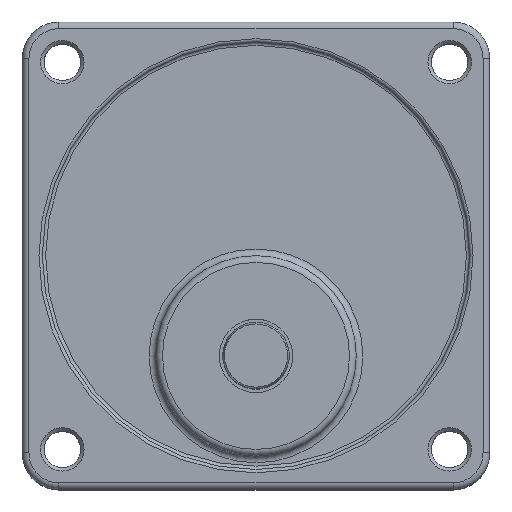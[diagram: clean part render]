
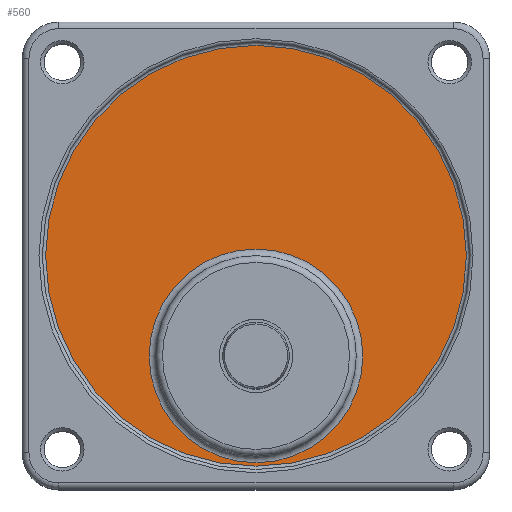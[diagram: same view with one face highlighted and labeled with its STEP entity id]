
A CAD part, top view. The second image highlights one B-rep face of the part: STEP entity #560.
In plain terms, the highlighted planar face has unit normal (0, 0, 1).
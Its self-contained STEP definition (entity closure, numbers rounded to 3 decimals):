
#509=CARTESIAN_POINT('',(51.,20.0,41.));
#510=VERTEX_POINT('',#509);
#511=CARTESIAN_POINT('',(35.,20.0,41.));
#512=DIRECTION('',(0.0,0.0,1.0));
#513=DIRECTION('',(-1.0,0.0,0.0));
#514=AXIS2_PLACEMENT_3D('',#511,#512,#513);
#515=CIRCLE('',#514,16.0);
#516=EDGE_CURVE('',#510,#510,#515,.T.);
#541=CARTESIAN_POINT('',(35.,35.0,41.));
#542=DIRECTION('',(0.0,0.0,-1.0));
#543=DIRECTION('',(-1.0,0.0,0.0));
#544=AXIS2_PLACEMENT_3D('',#541,#542,#543);
#545=PLANE('',#544);
#546=CARTESIAN_POINT('',(66.5,35.,41.));
#547=VERTEX_POINT('',#546);
#548=CARTESIAN_POINT('',(35.,35.0,41.));
#549=DIRECTION('',(0.0,0.0,-1.0));
#550=DIRECTION('',(-1.0,0.0,0.0));
#551=AXIS2_PLACEMENT_3D('',#548,#549,#550);
#552=CIRCLE('',#551,31.5);
#553=EDGE_CURVE('',#547,#547,#552,.T.);
#554=ORIENTED_EDGE('',*,*,#553,.F.);
#555=EDGE_LOOP('',(#554));
#556=FACE_OUTER_BOUND('',#555,.T.);
#557=ORIENTED_EDGE('',*,*,#516,.F.);
#558=EDGE_LOOP('',(#557));
#559=FACE_BOUND('',#558,.T.);
#560=ADVANCED_FACE('',(#556,#559),#545,.F.);
